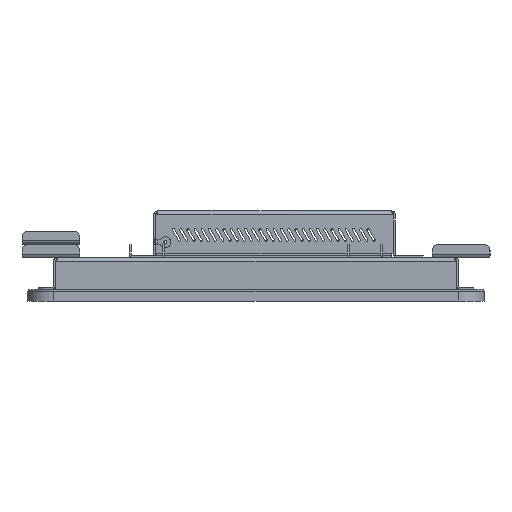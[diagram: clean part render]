
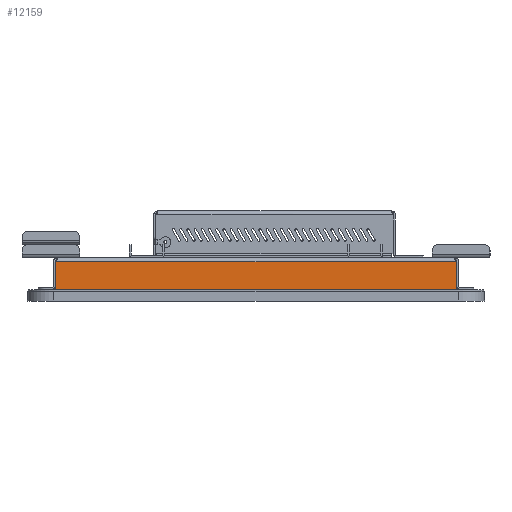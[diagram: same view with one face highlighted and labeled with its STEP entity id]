
A CAD part, left-side view. The second image highlights one B-rep face of the part: STEP entity #12159.
In plain terms, the highlighted planar face has unit normal (-1, 0, 0).
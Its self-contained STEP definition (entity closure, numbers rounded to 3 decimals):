
#12159=ADVANCED_FACE('',(#43442),#43444,.T.);
#43442=FACE_BOUND('',#43443,.T.);
#43443=EDGE_LOOP('',(#69150,#69151,#69152,#69153));
#43444=PLANE('',#43445);
#43445=AXIS2_PLACEMENT_3D('',#43446,#43447,#43448);
#43446=CARTESIAN_POINT('',(-252.,2.9,437.796));
#43447=DIRECTION('',(-1.,0.,0.));
#43448=DIRECTION('',(0.,0.,-1.));
#69150=ORIENTED_EDGE('',*,*,#87923,.T.);
#69151=ORIENTED_EDGE('',*,*,#87924,.T.);
#69152=ORIENTED_EDGE('',*,*,#84176,.T.);
#69153=ORIENTED_EDGE('',*,*,#87925,.T.);
#84176=EDGE_CURVE('',#95514,#95512,#95515,.T.);
#87923=EDGE_CURVE('',#101842,#101843,#101844,.F.);
#87924=EDGE_CURVE('',#101843,#95514,#101845,.T.);
#87925=EDGE_CURVE('',#95512,#101842,#101846,.T.);
#95512=VERTEX_POINT('',#115975);
#95514=VERTEX_POINT('',#115991);
#95515=LINE('',#115992,#115993);
#101842=VERTEX_POINT('',#130705);
#101843=VERTEX_POINT('',#130706);
#101844=LINE('',#130707,#130708);
#101845=LINE('',#130710,#130711);
#101846=LINE('',#130713,#130714);
#115975=CARTESIAN_POINT('',(-252.,3.8,-22.));
#115991=CARTESIAN_POINT('',(-252.,-253.,-22.));
#115992=CARTESIAN_POINT('',(-252.,-253.,-22.));
#115993=VECTOR('',#115994,1.);
#115994=DIRECTION('',(0.,1.,0.));
#130705=CARTESIAN_POINT('',(-252.,3.8,-40.));
#130706=CARTESIAN_POINT('',(-252.,-253.,-40.));
#130707=CARTESIAN_POINT('',(-252.,-253.,-40.));
#130708=VECTOR('',#130709,1.);
#130709=DIRECTION('',(0.,1.,0.));
#130710=CARTESIAN_POINT('',(-252.,-253.,-40.));
#130711=VECTOR('',#130712,1.);
#130712=DIRECTION('',(0.,0.,1.));
#130713=CARTESIAN_POINT('',(-252.,3.8,-22.));
#130714=VECTOR('',#130715,1.);
#130715=DIRECTION('',(0.,0.,-1.));
